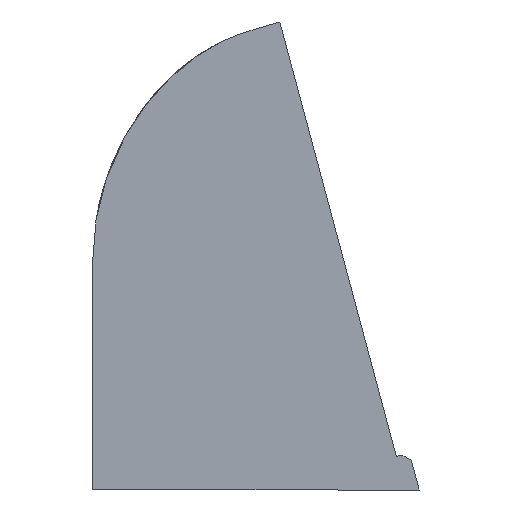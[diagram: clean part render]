
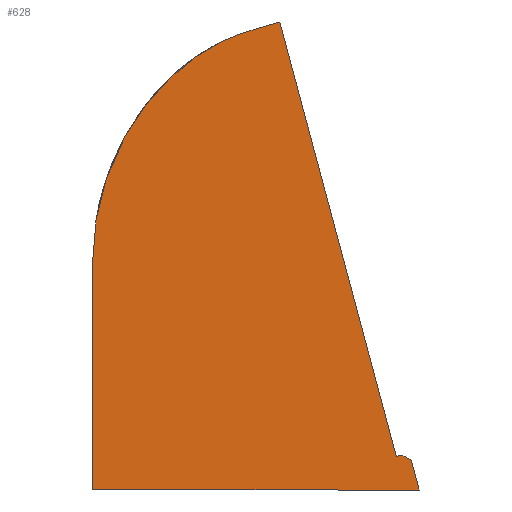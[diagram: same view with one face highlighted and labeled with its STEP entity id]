
A CAD part, front view. The second image highlights one B-rep face of the part: STEP entity #628.
In plain terms, the highlighted planar face has unit normal (0, -1, 0).
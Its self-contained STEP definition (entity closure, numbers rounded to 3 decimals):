
#32=FACE_OUTER_BOUND('',#65,.T.);
#65=EDGE_LOOP('',(#434,#435,#436,#437,#438,#439,#440,#441));
#97=(
BOUNDED_CURVE()
B_SPLINE_CURVE(2,(#904,#905,#906),.UNSPECIFIED.,.F.,.F.)
B_SPLINE_CURVE_WITH_KNOTS((3,3),(0.,7.693),.UNSPECIFIED.)
CURVE()
GEOMETRIC_REPRESENTATION_ITEM()
RATIONAL_B_SPLINE_CURVE((1.,0.739,1.))
REPRESENTATION_ITEM('')
);
#117=LINE('',#894,#193);
#120=LINE('',#899,#196);
#121=LINE('',#902,#197);
#122=LINE('',#908,#198);
#123=LINE('',#910,#199);
#124=LINE('',#912,#200);
#125=LINE('',#913,#201);
#193=VECTOR('',#731,10.);
#196=VECTOR('',#736,10.);
#197=VECTOR('',#739,10.);
#198=VECTOR('',#740,10.);
#199=VECTOR('',#741,10.);
#200=VECTOR('',#742,10.);
#201=VECTOR('',#743,10.);
#272=VERTEX_POINT('',#891);
#273=VERTEX_POINT('',#893);
#274=VERTEX_POINT('',#897);
#275=VERTEX_POINT('',#901);
#276=VERTEX_POINT('',#903);
#277=VERTEX_POINT('',#907);
#278=VERTEX_POINT('',#909);
#279=VERTEX_POINT('',#911);
#334=EDGE_CURVE('',#272,#273,#117,.T.);
#337=EDGE_CURVE('',#274,#272,#120,.T.);
#338=EDGE_CURVE('',#273,#275,#121,.T.);
#339=EDGE_CURVE('',#276,#274,#97,.T.);
#340=EDGE_CURVE('',#277,#276,#122,.T.);
#341=EDGE_CURVE('',#278,#277,#123,.T.);
#342=EDGE_CURVE('',#279,#278,#124,.T.);
#343=EDGE_CURVE('',#275,#279,#125,.T.);
#434=ORIENTED_EDGE('',*,*,#338,.F.);
#435=ORIENTED_EDGE('',*,*,#334,.F.);
#436=ORIENTED_EDGE('',*,*,#337,.F.);
#437=ORIENTED_EDGE('',*,*,#339,.F.);
#438=ORIENTED_EDGE('',*,*,#340,.F.);
#439=ORIENTED_EDGE('',*,*,#341,.F.);
#440=ORIENTED_EDGE('',*,*,#342,.F.);
#441=ORIENTED_EDGE('',*,*,#343,.F.);
#601=PLANE('',#678);
#628=ADVANCED_FACE('',(#32),#601,.F.);
#678=AXIS2_PLACEMENT_3D('',#900,#737,#738);
#731=DIRECTION('',(0.259,0.,-0.966));
#736=DIRECTION('',(0.961,0.,0.276));
#737=DIRECTION('center_axis',(0.,1.,0.));
#738=DIRECTION('ref_axis',(-1.,0.,0.));
#739=DIRECTION('',(0.966,0.,0.259));
#740=DIRECTION('',(0.,0.,1.));
#741=DIRECTION('',(-1.,0.,0.));
#742=DIRECTION('',(0.259,0.,-0.966));
#743=DIRECTION('',(0.866,0.,-0.5));
#891=CARTESIAN_POINT('',(-20.172,-88.5,121.85));
#893=CARTESIAN_POINT('',(10.142,-88.5,8.718));
#894=CARTESIAN_POINT('',(10.142,-88.5,8.718));
#897=CARTESIAN_POINT('',(-26.901,-88.5,119.919));
#899=CARTESIAN_POINT('',(-20.172,-88.5,121.85));
#900=CARTESIAN_POINT('Origin',(-26.398,-88.5,60.925));
#901=CARTESIAN_POINT('',(11.591,-88.5,9.106));
#902=CARTESIAN_POINT('',(10.142,-88.5,8.718));
#903=CARTESIAN_POINT('',(-68.898,-88.5,60.));
#904=CARTESIAN_POINT('Ctrl Pts',(-68.898,-88.5,60.));
#905=CARTESIAN_POINT('Ctrl Pts',(-68.898,-88.5,108.666));
#906=CARTESIAN_POINT('Ctrl Pts',(-26.901,-88.5,119.919));
#907=CARTESIAN_POINT('',(-68.898,-88.5,0.));
#908=CARTESIAN_POINT('',(-68.898,-88.5,0.));
#909=CARTESIAN_POINT('',(16.102,-88.5,0.));
#910=CARTESIAN_POINT('',(16.102,-88.5,0.));
#911=CARTESIAN_POINT('',(14.041,-88.5,7.692));
#912=CARTESIAN_POINT('',(14.041,-88.5,7.692));
#913=CARTESIAN_POINT('',(11.591,-88.5,9.106));
